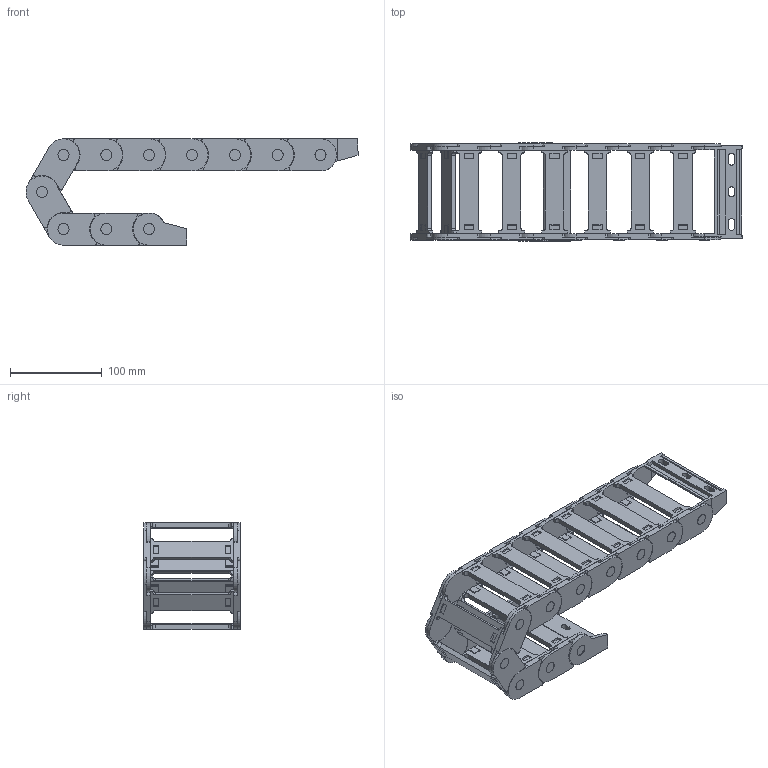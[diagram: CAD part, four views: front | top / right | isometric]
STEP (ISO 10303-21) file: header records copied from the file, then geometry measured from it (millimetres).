
FILE_DESCRIPTION((''),'2;1');
FILE_NAME('QS-25X90-R40_ASM','2022-06-08T10:01:23',('admin'),(''),'CREO PARAMETRIC BY PTC INC, 2021164','CREO PARAMETRIC BY PTC INC, 2021164','');
FILE_SCHEMA(('CONFIG_CONTROL_DESIGN','GEOMETRIC_VALIDATION_PROPERTIES_MIM'));
Length unit declared in the file: millimetre
Products named in the file (7): 25XL-L; 25XL-R; PIAN-25; ASM0001_ASM; 25X90-LTT-1; 25X90-LTT-2; QS-25X90-R40_ASM
Assembly tree (16 placements, depth 3):
  QS-25X90-R40_ASM
    ASM0001_ASM  x10
      25XL-L
      25XL-R
      PIAN-25
    25X90-LTT-1
    25X90-LTT-2
Bounding box: 361.2 x 106.6 x 115.71 mm (x, y, z)
Volume: 450927.2 mm3; surface area: 268321.6 mm2
Topology: 42 solids, 42 shells, 1652 faces, 4706 edges, 3162 vertices
Faces by surface type: plane 1268, cylinder 384
Entity records: 8445 total; most frequent: CARTESIAN_POINT 1339, DIRECTION 1194, ORIENTED_EDGE 1192, EDGE_CURVE 596, VECTOR 464, LINE 464, VERTEX_POINT 404, AXIS2_PLACEMENT_3D 365
